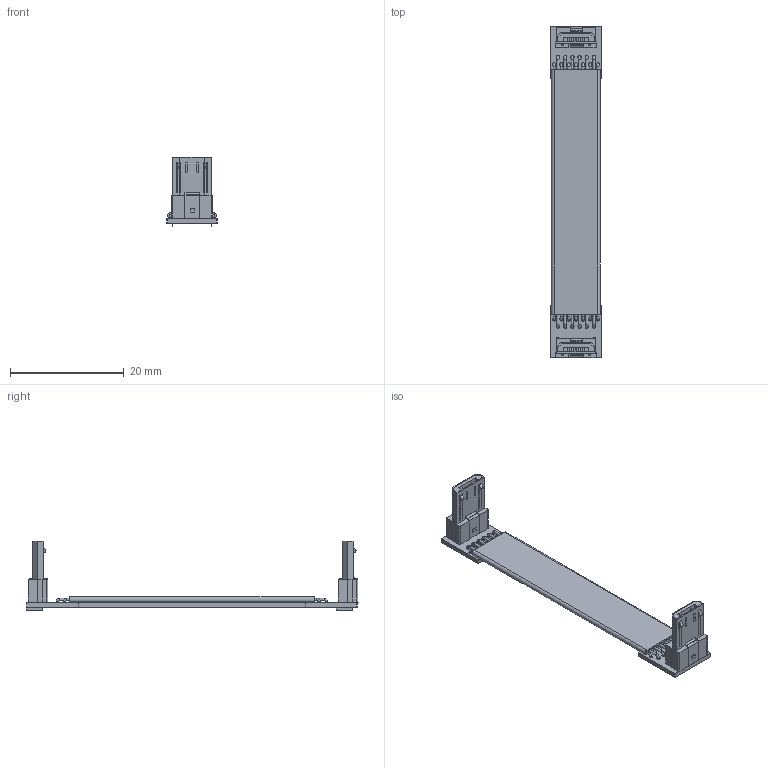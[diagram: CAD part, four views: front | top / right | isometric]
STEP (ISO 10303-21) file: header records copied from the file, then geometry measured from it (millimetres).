
FILE_DESCRIPTION(('Open CASCADE Model'),'2;1');
FILE_NAME('Open CASCADE Shape Model','2020-09-01T10:20:15',('Author'),( 'Open CASCADE'),'Open CASCADE STEP processor 6.8','Open CASCADE 6.8' ,'Unknown');
FILE_SCHEMA(('AUTOMOTIVE_DESIGN { 1 0 10303 214 1 1 1 1 }'));
Length unit declared in the file: millimetre
Products named in the file (34): PCB; Board; Open CASCADE STEP translator 6.8 23.1.1; Designator22; USB_micro; Designator22_1; Free-Models; cable13-US2A
Assembly tree (34 placements, depth 3):
  PCB
    Board
      Open CASCADE STEP translator 6.8 23.1.1
    Designator22
      USB_micro
    Designator22_1
      USB_micro
    Free-Models
      cable13-US2A
      cable13-US2A
      cable13-US2A
      cable13-US2A
      cable13-US2A
      cable13-US2A
      cable13-US2A
      cable13-US2A
      cable13-US2A
      cable13-US2A
      cable13-US2A
      cable13-US2A
      cable13-US2A
      cable13-US2A
      cable13-US2A
      cable13-US2A
      cable13-US2A
      cable13-US2A
      cable13-US2A
      cable13-US2A
      cable13-US2A
      cable13-US2A
      cable13-US2A
      cable13-US2A
      cable13-US2A
      cable13-US2A
      cable13-US2A
Bounding box: 8.83 x 58.35 x 12.18 mm (x, y, z)
Volume: 732.2 mm3; surface area: 2807.4 mm2
Topology: 30 solids, 30 shells, 551 faces, 1341 edges, 864 vertices
Faces by surface type: plane 354, cylinder 171, torus 26
Full cylindrical faces by diameter (mm): 0.36 x10, 0.4 x65, 0.6 x26
Entity records: 14606 total; most frequent: CARTESIAN_POINT 2111, DIRECTION 1942, ORIENTED_EDGE 1790, EDGE_CURVE 895, AXIS2_PLACEMENT_3D 716, VERTEX_POINT 573, LINE 510, VECTOR 510
